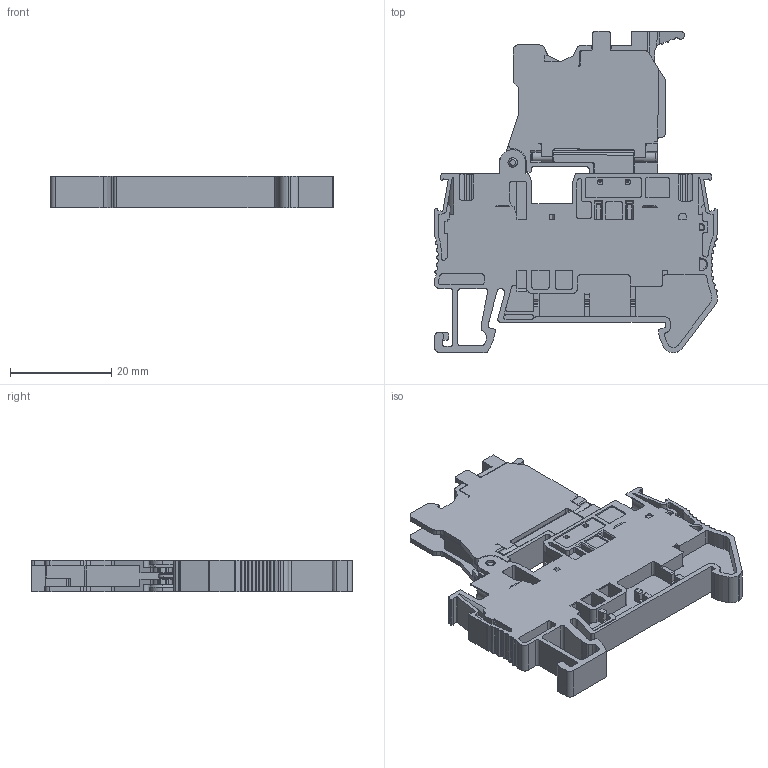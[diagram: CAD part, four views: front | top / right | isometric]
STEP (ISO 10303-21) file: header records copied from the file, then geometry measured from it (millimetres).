
FILE_DESCRIPTION(/* description */ (''),/* implementation_level */ '2;1');
FILE_NAME(/* name */ 'UPT-4RD ASSY.stp',/* time_stamp */ '2024-04-26T16:16:43+08:00',/* author */ (''),/* organization */ (''),/* preprocessor_version */ 'ST-DEVELOPER v16.7',/* originating_system */ 'SIEMENS PLM Software NX 12.0',/* authorisation */ '');
FILE_SCHEMA (('AUTOMOTIVE_DESIGN { 1 0 10303 214 3 1 1 1 }'));
Products named in the file (1): Admi0EB4BAB8ixzj
Bounding box: 55.8 x 63.35 x 6.2 mm (x, y, z)
Volume: 9917.4 mm3; surface area: 12193.5 mm2
Topology: 2 solids, 18 shells, 3016 faces, 8516 edges, 5607 vertices
Faces by surface type: plane 2123, cylinder 745, cone 106, torus 24, bspline 17, extrusion 1
Entity records: 99179 total; most frequent: CARTESIAN_POINT 18768, ORIENTED_EDGE 17008, DIRECTION 15898, EDGE_CURVE 8504, VECTOR 6660, LINE 6659, VERTEX_POINT 5606, AXIS2_PLACEMENT_3D 4619
